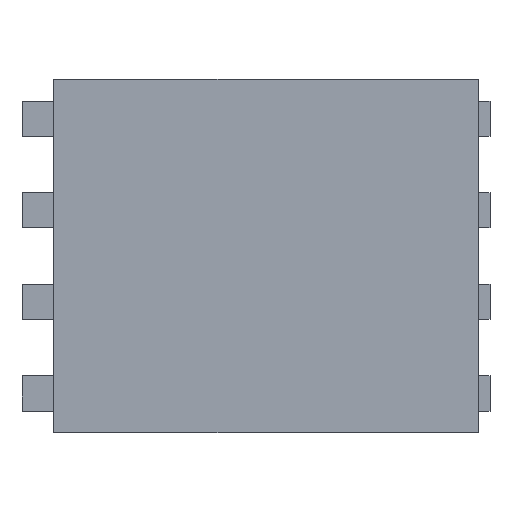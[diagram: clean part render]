
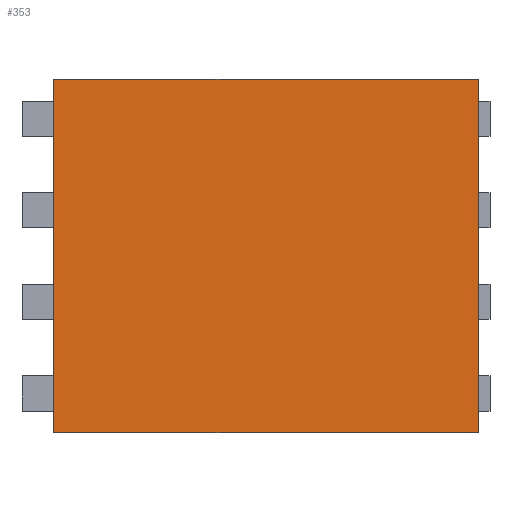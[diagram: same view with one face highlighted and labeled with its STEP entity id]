
A CAD part, top view. The second image highlights one B-rep face of the part: STEP entity #353.
In plain terms, the highlighted planar face has unit normal (0, 0, 1).
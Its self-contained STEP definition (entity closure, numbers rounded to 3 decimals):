
#39 = VERTEX_POINT('',#40);
#40 = CARTESIAN_POINT('',(-2.945,2.45,1.12));
#47 = PLANE('',#48);
#48 = AXIS2_PLACEMENT_3D('',#49,#50,#51);
#49 = CARTESIAN_POINT('',(-2.945,2.45,0.));
#50 = DIRECTION('',(0.,1.,0.));
#51 = DIRECTION('',(1.,0.,0.));
#59 = PLANE('',#60);
#60 = AXIS2_PLACEMENT_3D('',#61,#62,#63);
#61 = CARTESIAN_POINT('',(-2.945,-2.45,0.));
#62 = DIRECTION('',(-1.,0.,0.));
#63 = DIRECTION('',(0.,1.,0.));
#71 = EDGE_CURVE('',#39,#72,#74,.T.);
#72 = VERTEX_POINT('',#73);
#73 = CARTESIAN_POINT('',(2.945,2.45,1.12));
#74 = SURFACE_CURVE('',#75,(#79,#86),.PCURVE_S1.);
#75 = LINE('',#76,#77);
#76 = CARTESIAN_POINT('',(-2.945,2.45,1.12));
#77 = VECTOR('',#78,1.);
#78 = DIRECTION('',(1.,0.,0.));
#79 = PCURVE('',#47,#80);
#80 = DEFINITIONAL_REPRESENTATION('',(#81),#85);
#81 = LINE('',#82,#83);
#82 = CARTESIAN_POINT('',(0.,-1.12));
#83 = VECTOR('',#84,1.);
#84 = DIRECTION('',(1.,0.));
#85 = ( GEOMETRIC_REPRESENTATION_CONTEXT(2) 
PARAMETRIC_REPRESENTATION_CONTEXT() REPRESENTATION_CONTEXT('2D SPACE',''
  ) );
#86 = PCURVE('',#87,#92);
#87 = PLANE('',#88);
#88 = AXIS2_PLACEMENT_3D('',#89,#90,#91);
#89 = CARTESIAN_POINT('',(0.,0.,1.12)
  );
#90 = DIRECTION('',(-0.,-0.,-1.));
#91 = DIRECTION('',(-1.,0.,0.));
#92 = DEFINITIONAL_REPRESENTATION('',(#93),#97);
#93 = LINE('',#94,#95);
#94 = CARTESIAN_POINT('',(2.945,2.45));
#95 = VECTOR('',#96,1.);
#96 = DIRECTION('',(-1.,0.));
#97 = ( GEOMETRIC_REPRESENTATION_CONTEXT(2) 
PARAMETRIC_REPRESENTATION_CONTEXT() REPRESENTATION_CONTEXT('2D SPACE',''
  ) );
#115 = PLANE('',#116);
#116 = AXIS2_PLACEMENT_3D('',#117,#118,#119);
#117 = CARTESIAN_POINT('',(2.945,2.45,0.));
#118 = DIRECTION('',(1.,0.,-0.));
#119 = DIRECTION('',(0.,-1.,0.));
#157 = EDGE_CURVE('',#72,#158,#160,.T.);
#158 = VERTEX_POINT('',#159);
#159 = CARTESIAN_POINT('',(2.945,-2.45,1.12));
#160 = SURFACE_CURVE('',#161,(#165,#172),.PCURVE_S1.);
#161 = LINE('',#162,#163);
#162 = CARTESIAN_POINT('',(2.945,2.45,1.12));
#163 = VECTOR('',#164,1.);
#164 = DIRECTION('',(0.,-1.,0.));
#165 = PCURVE('',#115,#166);
#166 = DEFINITIONAL_REPRESENTATION('',(#167),#171);
#167 = LINE('',#168,#169);
#168 = CARTESIAN_POINT('',(0.,-1.12));
#169 = VECTOR('',#170,1.);
#170 = DIRECTION('',(1.,0.));
#171 = ( GEOMETRIC_REPRESENTATION_CONTEXT(2) 
PARAMETRIC_REPRESENTATION_CONTEXT() REPRESENTATION_CONTEXT('2D SPACE',''
  ) );
#172 = PCURVE('',#87,#173);
#173 = DEFINITIONAL_REPRESENTATION('',(#174),#178);
#174 = LINE('',#175,#176);
#175 = CARTESIAN_POINT('',(-2.945,2.45));
#176 = VECTOR('',#177,1.);
#177 = DIRECTION('',(0.,-1.));
#178 = ( GEOMETRIC_REPRESENTATION_CONTEXT(2) 
PARAMETRIC_REPRESENTATION_CONTEXT() REPRESENTATION_CONTEXT('2D SPACE',''
  ) );
#196 = PLANE('',#197);
#197 = AXIS2_PLACEMENT_3D('',#198,#199,#200);
#198 = CARTESIAN_POINT('',(2.945,-2.45,0.));
#199 = DIRECTION('',(0.,-1.,0.));
#200 = DIRECTION('',(-1.,0.,0.));
#233 = EDGE_CURVE('',#158,#234,#236,.T.);
#234 = VERTEX_POINT('',#235);
#235 = CARTESIAN_POINT('',(-2.945,-2.45,1.12));
#236 = SURFACE_CURVE('',#237,(#241,#248),.PCURVE_S1.);
#237 = LINE('',#238,#239);
#238 = CARTESIAN_POINT('',(2.945,-2.45,1.12));
#239 = VECTOR('',#240,1.);
#240 = DIRECTION('',(-1.,0.,0.));
#241 = PCURVE('',#196,#242);
#242 = DEFINITIONAL_REPRESENTATION('',(#243),#247);
#243 = LINE('',#244,#245);
#244 = CARTESIAN_POINT('',(0.,-1.12));
#245 = VECTOR('',#246,1.);
#246 = DIRECTION('',(1.,0.));
#247 = ( GEOMETRIC_REPRESENTATION_CONTEXT(2) 
PARAMETRIC_REPRESENTATION_CONTEXT() REPRESENTATION_CONTEXT('2D SPACE',''
  ) );
#248 = PCURVE('',#87,#249);
#249 = DEFINITIONAL_REPRESENTATION('',(#250),#254);
#250 = LINE('',#251,#252);
#251 = CARTESIAN_POINT('',(-2.945,-2.45));
#252 = VECTOR('',#253,1.);
#253 = DIRECTION('',(1.,0.));
#254 = ( GEOMETRIC_REPRESENTATION_CONTEXT(2) 
PARAMETRIC_REPRESENTATION_CONTEXT() REPRESENTATION_CONTEXT('2D SPACE',''
  ) );
#304 = EDGE_CURVE('',#234,#39,#305,.T.);
#305 = SURFACE_CURVE('',#306,(#310,#317),.PCURVE_S1.);
#306 = LINE('',#307,#308);
#307 = CARTESIAN_POINT('',(-2.945,-2.45,1.12));
#308 = VECTOR('',#309,1.);
#309 = DIRECTION('',(0.,1.,0.));
#310 = PCURVE('',#59,#311);
#311 = DEFINITIONAL_REPRESENTATION('',(#312),#316);
#312 = LINE('',#313,#314);
#313 = CARTESIAN_POINT('',(0.,-1.12));
#314 = VECTOR('',#315,1.);
#315 = DIRECTION('',(1.,0.));
#316 = ( GEOMETRIC_REPRESENTATION_CONTEXT(2) 
PARAMETRIC_REPRESENTATION_CONTEXT() REPRESENTATION_CONTEXT('2D SPACE',''
  ) );
#317 = PCURVE('',#87,#318);
#318 = DEFINITIONAL_REPRESENTATION('',(#319),#323);
#319 = LINE('',#320,#321);
#320 = CARTESIAN_POINT('',(2.945,-2.45));
#321 = VECTOR('',#322,1.);
#322 = DIRECTION('',(0.,1.));
#323 = ( GEOMETRIC_REPRESENTATION_CONTEXT(2) 
PARAMETRIC_REPRESENTATION_CONTEXT() REPRESENTATION_CONTEXT('2D SPACE',''
  ) );
#353 = ADVANCED_FACE('',(#354),#87,.F.);
#354 = FACE_BOUND('',#355,.F.);
#355 = EDGE_LOOP('',(#356,#357,#358,#359));
#356 = ORIENTED_EDGE('',*,*,#71,.T.);
#357 = ORIENTED_EDGE('',*,*,#157,.T.);
#358 = ORIENTED_EDGE('',*,*,#233,.T.);
#359 = ORIENTED_EDGE('',*,*,#304,.T.);
